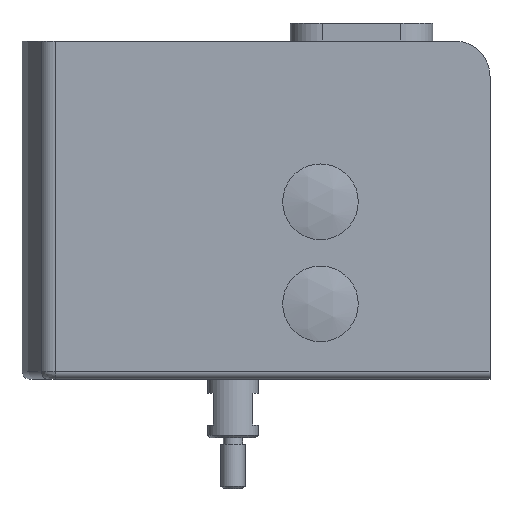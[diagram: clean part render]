
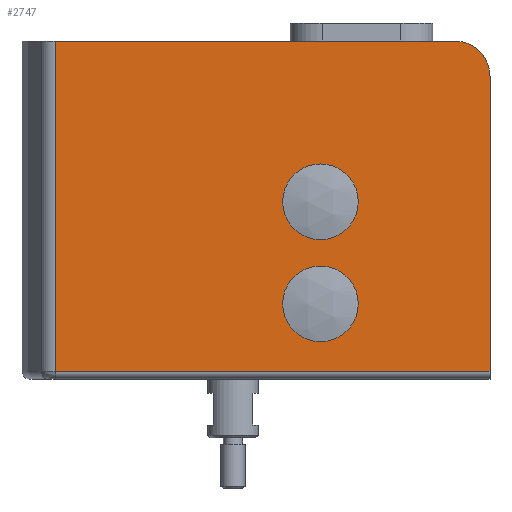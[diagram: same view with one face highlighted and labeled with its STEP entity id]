
A CAD part, front view. The second image highlights one B-rep face of the part: STEP entity #2747.
In plain terms, the highlighted planar face has unit normal (0, -1, 0).
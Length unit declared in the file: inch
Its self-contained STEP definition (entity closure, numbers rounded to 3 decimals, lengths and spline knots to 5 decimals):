
#98=FACE_BOUND('',#842,.T.);
#99=FACE_BOUND('',#843,.T.);
#241=LINE('',#4609,#451);
#242=LINE('',#4614,#452);
#243=LINE('',#4615,#453);
#244=LINE('',#4616,#454);
#451=VECTOR('',#3636,1.);
#452=VECTOR('',#3641,1.);
#453=VECTOR('',#3642,1.);
#454=VECTOR('',#3643,1.);
#670=FACE_OUTER_BOUND('',#841,.T.);
#841=EDGE_LOOP('',(#2253,#2254,#2255,#2256,#2257));
#842=EDGE_LOOP('',(#2258,#2259));
#843=EDGE_LOOP('',(#2260,#2261));
#985=CIRCLE('',#2971,0.2965);
#986=CIRCLE('',#2972,0.2965);
#989=CIRCLE('',#2977,0.2965);
#990=CIRCLE('',#2978,0.2965);
#994=CIRCLE('',#2985,0.275);
#1217=VERTEX_POINT('',#4502);
#1218=VERTEX_POINT('',#4504);
#1221=VERTEX_POINT('',#4513);
#1222=VERTEX_POINT('',#4515);
#1233=VERTEX_POINT('',#4541);
#1234=VERTEX_POINT('',#4542);
#1259=VERTEX_POINT('',#4608);
#1260=VERTEX_POINT('',#4612);
#1261=VERTEX_POINT('',#4613);
#1562=EDGE_CURVE('',#1218,#1217,#985,.T.);
#1563=EDGE_CURVE('',#1217,#1218,#986,.T.);
#1567=EDGE_CURVE('',#1222,#1221,#989,.T.);
#1568=EDGE_CURVE('',#1221,#1222,#990,.T.);
#1579=EDGE_CURVE('',#1233,#1234,#994,.T.);
#1612=EDGE_CURVE('',#1234,#1259,#241,.T.);
#1614=EDGE_CURVE('',#1260,#1261,#242,.T.);
#1615=EDGE_CURVE('',#1260,#1259,#243,.T.);
#1616=EDGE_CURVE('',#1261,#1233,#244,.T.);
#2253=ORIENTED_EDGE('',*,*,#1614,.F.);
#2254=ORIENTED_EDGE('',*,*,#1615,.T.);
#2255=ORIENTED_EDGE('',*,*,#1612,.F.);
#2256=ORIENTED_EDGE('',*,*,#1579,.F.);
#2257=ORIENTED_EDGE('',*,*,#1616,.F.);
#2258=ORIENTED_EDGE('',*,*,#1562,.T.);
#2259=ORIENTED_EDGE('',*,*,#1563,.T.);
#2260=ORIENTED_EDGE('',*,*,#1567,.T.);
#2261=ORIENTED_EDGE('',*,*,#1568,.T.);
#2621=PLANE('',#3006);
#2747=ADVANCED_FACE('',(#670,#98,#99),#2621,.T.);
#2971=AXIS2_PLACEMENT_3D('',#4505,#3539,#3540);
#2972=AXIS2_PLACEMENT_3D('',#4506,#3541,#3542);
#2977=AXIS2_PLACEMENT_3D('',#4516,#3552,#3553);
#2978=AXIS2_PLACEMENT_3D('',#4517,#3554,#3555);
#2985=AXIS2_PLACEMENT_3D('',#4543,#3575,#3576);
#3006=AXIS2_PLACEMENT_3D('',#4611,#3639,#3640);
#3539=DIRECTION('center_axis',(0.,1.,0.));
#3540=DIRECTION('ref_axis',(1.,0.,0.));
#3541=DIRECTION('center_axis',(0.,1.,0.));
#3542=DIRECTION('ref_axis',(1.,0.,0.));
#3552=DIRECTION('center_axis',(0.,1.,0.));
#3553=DIRECTION('ref_axis',(1.,0.,0.));
#3554=DIRECTION('center_axis',(0.,1.,0.));
#3555=DIRECTION('ref_axis',(1.,0.,0.));
#3575=DIRECTION('center_axis',(0.,1.,0.));
#3576=DIRECTION('ref_axis',(0.707,0.,0.707));
#3636=DIRECTION('',(0.,0.,-1.));
#3639=DIRECTION('center_axis',(0.,-1.,0.));
#3640=DIRECTION('ref_axis',(1.,0.,0.));
#3641=DIRECTION('',(0.,0.,1.));
#3642=DIRECTION('',(1.,0.,0.));
#3643=DIRECTION('',(1.,0.,0.));
#4502=CARTESIAN_POINT('',(5.39907,35.47064,7.119));
#4504=CARTESIAN_POINT('',(5.99207,35.47064,7.119));
#4505=CARTESIAN_POINT('Origin',(5.69557,35.47064,7.119));
#4506=CARTESIAN_POINT('Origin',(5.69557,35.47064,7.119));
#4513=CARTESIAN_POINT('',(5.39907,35.47064,7.919));
#4515=CARTESIAN_POINT('',(5.99207,35.47064,7.919));
#4516=CARTESIAN_POINT('Origin',(5.69557,35.47064,7.919));
#4517=CARTESIAN_POINT('Origin',(5.69557,35.47064,7.919));
#4541=CARTESIAN_POINT('',(6.74957,35.47064,9.179));
#4542=CARTESIAN_POINT('',(7.02457,35.47064,8.904));
#4543=CARTESIAN_POINT('Origin',(6.74957,35.47064,8.904));
#4608=CARTESIAN_POINT('',(7.02457,35.47064,6.5915));
#4609=CARTESIAN_POINT('',(7.02457,35.47064,7.1915));
#4611=CARTESIAN_POINT('Origin',(3.44159,35.47064,6.529));
#4612=CARTESIAN_POINT('',(3.61899,35.47064,6.5915));
#4613=CARTESIAN_POINT('',(3.61899,35.47064,9.179));
#4614=CARTESIAN_POINT('',(3.61899,35.47064,6.529));
#4615=CARTESIAN_POINT('',(6.90957,35.47064,6.5915));
#4616=CARTESIAN_POINT('',(6.50193,35.47064,9.179));
